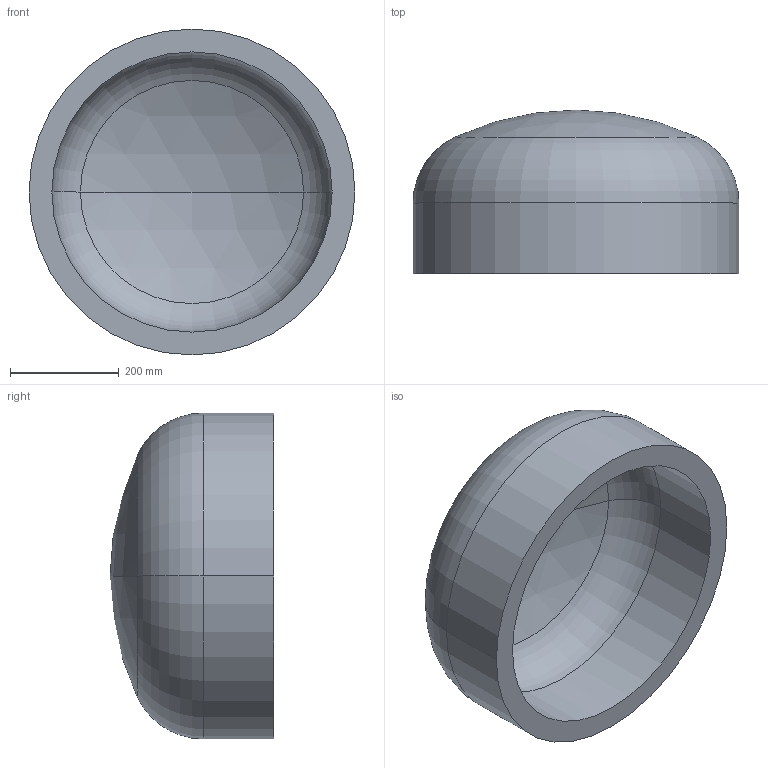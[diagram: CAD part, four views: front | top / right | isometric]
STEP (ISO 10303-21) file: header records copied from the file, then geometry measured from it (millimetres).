
FILE_DESCRIPTION (( 'STEP AP203' ), '1' );
FILE_NAME ('DIN 28013 Korbbogenform_-_Boden DIN 28013 - 600 x 130 - I - s=42.step', '2016-07-01T08:00:39', ( '' ), ( '' ), 'SwSTEP 2.0', 'SolidWorks 2013', '' );
FILE_SCHEMA (( 'CONFIG_CONTROL_DESIGN' ));
Length unit declared in the file: millimetre
Products named in the file (1): DIN 28013 Korbbogenform_-_Boden DIN 28013 - 600 x 130 - I - s=42
Bounding box: 600 x 301.3 x 600 mm (x, y, z)
Volume: 24611399 mm3; surface area: 1249292.1 mm2
Topology: 1 solids, 1 shells, 13 faces, 24 edges, 14 vertices
Faces by surface type: torus 4, cylinder 4, sphere 4, plane 1
Entity records: 407 total; most frequent: DIRECTION 72, CARTESIAN_POINT 52, ORIENTED_EDGE 48, AXIS2_PLACEMENT_3D 34, EDGE_CURVE 24, CIRCLE 20, EDGE_LOOP 14, VERTEX_POINT 14
